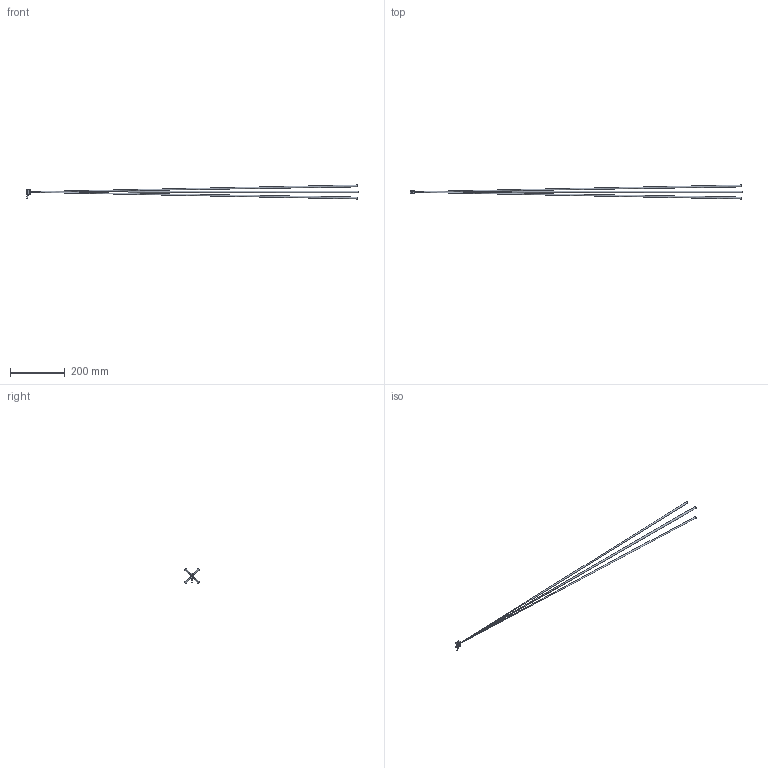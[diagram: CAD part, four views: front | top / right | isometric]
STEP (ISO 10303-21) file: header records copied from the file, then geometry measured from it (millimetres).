
FILE_DESCRIPTION( ( '' ), '1' );
FILE_NAME( 'X:/SolidEdge/Models/Dokumentationen/Opto/O200/Vereinfachte Modelle/Neutralformate/O200.RL.C-xxxx.xxxx_FIN1.stp', '2020-05-05T09:15:38', ( 'cth' ), ( 'Baumer' ), 'PSStep 19.0.9', ' ', ' ' );
FILE_SCHEMA( ( 'AUTOMOTIVE_DESIGN { 1 0 10303 214 1 1 1 1 }' ) );
Length unit declared in the file: millimetre
Products named in the file (10): O200.RL.x_BeamChart; O200.RL.x_NominalBeam; O200.RL.x_MaxDevBeam; O200.RL.x_MaxDevBeam-oa1; O200.RL.x_MaxDevBeam-oa2; O200.RL.x_MaxDevBeam-oa3; Assem1; O200_RL-RP.C-oa0
Assembly tree (9 placements, depth 3):
  Assem1
    O200_RL-RP.C-oa0
    O200_RL-RP.C-oa0
    O200_RL-RP.C-oa0
    O200.RL.x_BeamChart
      O200.RL.x_NominalBeam
      O200.RL.x_MaxDevBeam
      O200.RL.x_MaxDevBeam-oa1
      O200.RL.x_MaxDevBeam-oa2
      O200.RL.x_MaxDevBeam-oa3
Bounding box: 1215.7 x 51.42 x 51.43 mm (x, y, z)
Volume: 94430.9 mm3; surface area: 79878.7 mm2
Topology: 8 solids, 8 shells, 163 faces, 354 edges, 217 vertices
Faces by surface type: plane 67, cylinder 46, bspline 18, torus 13, cone 9, revolution 6, sphere 4
Full cylindrical faces by diameter (mm): 0.5 x1, 2.7 x1, 3.05 x2, 5 x4
Entity records: 7558 total; most frequent: CARTESIAN_POINT 2673, DIRECTION 759, ORIENTED_EDGE 646, EDGE_CURVE 323, AXIS2_PLACEMENT_3D 303, VERTEX_POINT 217, EDGE_LOOP 201, FACE_OUTER_BOUND 179
